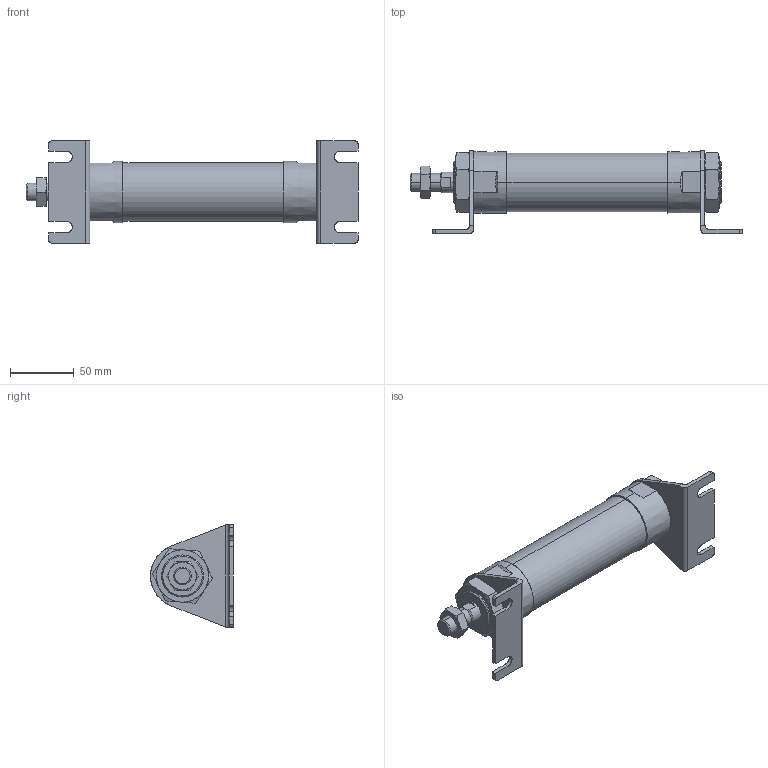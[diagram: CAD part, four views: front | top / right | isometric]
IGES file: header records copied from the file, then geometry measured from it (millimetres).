
Start section: SolidWorks IGES file using analytic representation for surfaces
Global section: file name: C:\Users\Toshiba\Desktop\J#2-40-75-L.IGS; native system: SolidWorks 2014; preprocessor: SolidWorks 2014; author: Toshiba; date: 160310.090511; units: millimetre
Bounding box: 260.2 x 65 x 80 mm (x, y, z)
Surface area: 67424.9 mm2 (no closed solid volume)
Topology: 0 solids, 0 shells, 170 faces, 3118 edges, 3114 vertices
Faces by surface type: bspline 107, revolution 63
